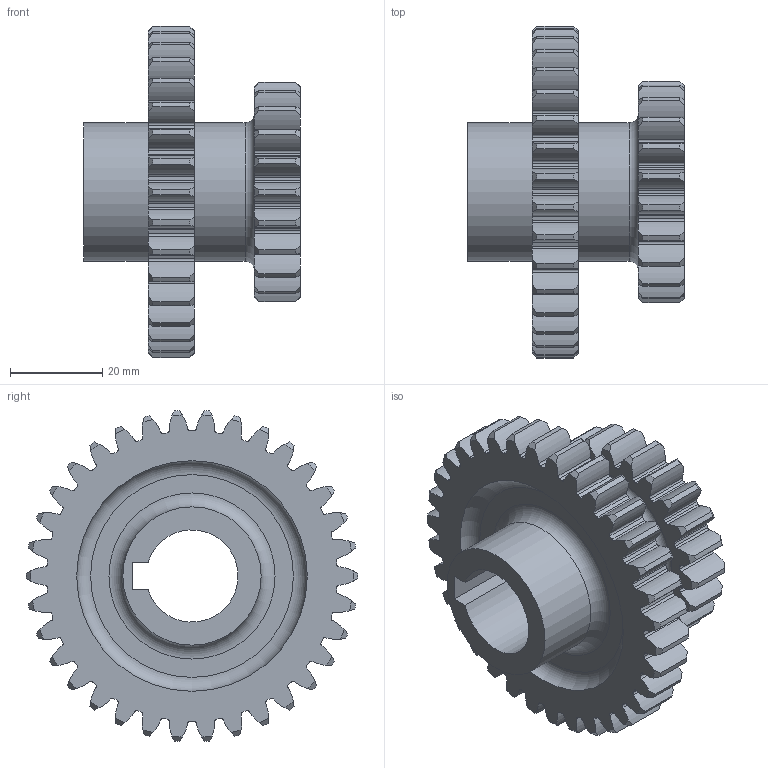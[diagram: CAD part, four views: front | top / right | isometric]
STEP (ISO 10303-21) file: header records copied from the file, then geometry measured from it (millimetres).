
FILE_DESCRIPTION(/* description */ (''),/* implementation_level */ '2;1');
FILE_NAME(/* name */ 'C:\Users\HI\Desktop\기어.stp',/* time_stamp */ '2019-03-22T16:24:31+09:00',/* author */ ('HI'),/* organization */ (''),/* preprocessor_version */ 'ST-DEVELOPER v15.2',/* originating_system */ 'Autodesk Inventor 2014',/* authorisation */ '');
FILE_SCHEMA (('AUTOMOTIVE_DESIGN { 1 0 10303 214 3 1 1 }'));
Length unit declared in the file: millimetre
Products named in the file (1): 기어
Bounding box: 47 x 72 x 71.79 mm (x, y, z)
Volume: 47836.4 mm3; surface area: 21301.7 mm2
Topology: 1 solids, 1 shells, 467 faces, 1377 edges, 917 vertices
Faces by surface type: cylinder 339, cone 113, plane 10, torus 5
Full cylindrical faces by diameter (mm): 30 x2
Entity records: 16237 total; most frequent: CARTESIAN_POINT 3431, DIRECTION 2878, ORIENTED_EDGE 2740, EDGE_CURVE 1370, AXIS2_PLACEMENT_3D 1266, VERTEX_POINT 917, CIRCLE 798, EDGE_LOOP 481
